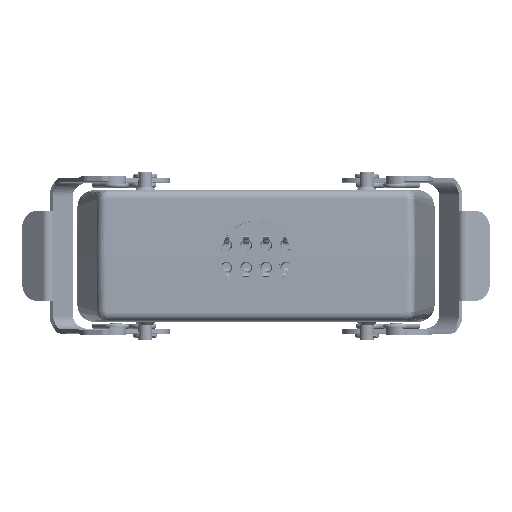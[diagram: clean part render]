
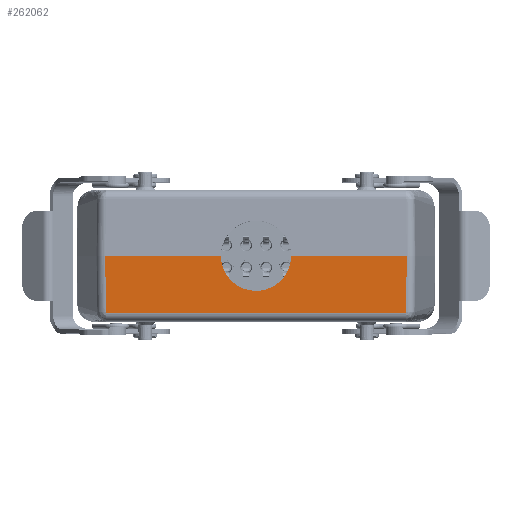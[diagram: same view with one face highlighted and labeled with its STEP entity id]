
A CAD part, top view. The second image highlights one B-rep face of the part: STEP entity #262062.
In plain terms, the highlighted planar face has unit normal (0, -0.018, 1).
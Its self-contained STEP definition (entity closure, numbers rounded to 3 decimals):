
#6110 = DIRECTION ( 'NONE',  ( 0., -0.017, 1. ) ) ;
#6234 = CARTESIAN_POINT ( 'NONE',  ( 50.153, -18.917, 59.67 ) ) ;
#9645 = CARTESIAN_POINT ( 'NONE',  ( -52.947, -19.052, 59.667 ) ) ;
#14399 = EDGE_LOOP ( 'NONE', ( #316236, #77474, #249715, #172580, #141504, #107787, #217909, #228709, #210722 ) ) ;
#17955 = CARTESIAN_POINT ( 'NONE',  ( -50.058, -19.052, 59.667 ) ) ;
#34614 = DIRECTION ( 'NONE',  ( -1., 0., 0. ) ) ;
#38560 = EDGE_CURVE ( 'NONE', #54289, #245146, #62503, .T. ) ;
#39101 = VERTEX_POINT ( 'NONE', #93940 ) ;
#44345 = EDGE_CURVE ( 'NONE', #209314, #253117, #88830, .T. ) ;
#49639 = DIRECTION ( 'NONE',  ( -1., 0., 0. ) ) ;
#51394 = EDGE_CURVE ( 'NONE', #96812, #39101, #92286, .T. ) ;
#52147 = CARTESIAN_POINT ( 'NONE',  ( -11.75, 0., 60. ) ) ;
#53571 = PLANE ( 'NONE',  #227702 ) ;
#54289 = VERTEX_POINT ( 'NONE', #114139 ) ;
#55375 = CARTESIAN_POINT ( 'NONE',  ( -11.75, -5.878, 59.897 ) ) ;
#55895 = LINE ( 'NONE', #258601, #176238 ) ;
#62503 = LINE ( 'NONE', #266779, #234256 ) ;
#70701 = CARTESIAN_POINT ( 'NONE',  ( 11.75, -5.878, 59.897 ) ) ;
#77474 = ORIENTED_EDGE ( 'NONE', *, *, #134165, .T. ) ;
#78141 = CARTESIAN_POINT ( 'NONE',  ( -52.947, 0., 60. ) ) ;
#83987 = CARTESIAN_POINT ( 'NONE',  ( -50.43, 0., 60. ) ) ;
#85578 = CARTESIAN_POINT ( 'NONE',  ( -50.245, -12.616, 59.78 ) ) ;
#86524 = DIRECTION ( 'NONE',  ( 1., 0., 0. ) ) ;
#88830 = B_SPLINE_CURVE_WITH_KNOTS ( 'NONE', 3,
 ( #214226, #142303, #292598, #241982, #17955, #217447 ),
 .UNSPECIFIED., .F., .F.,
 ( 4, 2, 4 ),
 ( 0., 0.5, 1. ),
 .UNSPECIFIED. ) ;
#92286 = LINE ( 'NONE', #244264, #164946 ) ;
#93940 = CARTESIAN_POINT ( 'NONE',  ( -50.43, 0., 60. ) ) ;
#96812 = VERTEX_POINT ( 'NONE', #316627 ) ;
#107787 = ORIENTED_EDGE ( 'NONE', *, *, #44345, .T. ) ;
#113781 = B_SPLINE_CURVE_WITH_KNOTS ( 'NONE', 3,
 ( #231160, #206609, #308016, #306390, #186883, #262088 ),
 .UNSPECIFIED., .F., .F.,
 ( 4, 2, 4 ),
 ( 0., 0.5, 1. ),
 .UNSPECIFIED. ) ;
#114139 = CARTESIAN_POINT ( 'NONE',  ( 50.43, 0., 60. ) ) ;
#114777 = DIRECTION ( 'NONE',  ( -0.015, -1., -0.017 ) ) ;
#129056 = CARTESIAN_POINT ( 'NONE',  ( 11.75, 0., 60. ) ) ;
#134165 = EDGE_CURVE ( 'NONE', #313112, #228527, #278596, .T. ) ;
#135625 = LINE ( 'NONE', #9645, #307247 ) ;
#141504 = ORIENTED_EDGE ( 'NONE', *, *, #243201, .F. ) ;
#142303 = CARTESIAN_POINT ( 'NONE',  ( -50.152, -18.959, 59.669 ) ) ;
#150092 = DIRECTION ( 'NONE',  ( -1., 0., 0. ) ) ;
#157567 = CARTESIAN_POINT ( 'NONE',  ( -50.153, -18.923, 59.67 ) ) ;
#164946 = VECTOR ( 'NONE', #49639, 1000. ) ;
#170400 = CARTESIAN_POINT ( 'NONE',  ( 7.833, -11.755, 59.795 ) ) ;
#172580 = ORIENTED_EDGE ( 'NONE', *, *, #51394, .T. ) ;
#176238 = VECTOR ( 'NONE', #34614, 1000. ) ;
#183970 = EDGE_CURVE ( 'NONE', #253117, #282052, #135625, .T. ) ;
#186883 = CARTESIAN_POINT ( 'NONE',  ( 50.152, -18.955, 59.669 ) ) ;
#205570 = EDGE_CURVE ( 'NONE', #282052, #245146, #113781, .T. ) ;
#206609 = CARTESIAN_POINT ( 'NONE',  ( 50.052, -19.052, 59.667 ) ) ;
#208793 = CARTESIAN_POINT ( 'NONE',  ( 50.015, -19.052, 59.667 ) ) ;
#209314 = VERTEX_POINT ( 'NONE', #276887 ) ;
#210722 = ORIENTED_EDGE ( 'NONE', *, *, #38560, .F. ) ;
#214226 = CARTESIAN_POINT ( 'NONE',  ( -50.153, -18.923, 59.67 ) ) ;
#217330 = B_SPLINE_CURVE_WITH_KNOTS ( 'NONE', 3,
 ( #157567, #85578, #307979, #83987 ),
 .UNSPECIFIED., .F., .F.,
 ( 4, 4 ),
 ( 0., 1. ),
 .UNSPECIFIED. ) ;
#217447 = CARTESIAN_POINT ( 'NONE',  ( -50.021, -19.052, 59.667 ) ) ;
#217909 = ORIENTED_EDGE ( 'NONE', *, *, #183970, .T. ) ;
#225509 = CARTESIAN_POINT ( 'NONE',  ( 0., -11.755, 59.795 ) ) ;
#227702 = AXIS2_PLACEMENT_3D ( 'NONE', #78141, #6110, #150092 ) ;
#228509 = FACE_OUTER_BOUND ( 'NONE', #14399, .T. ) ;
#228527 = VERTEX_POINT ( 'NONE', #281237 ) ;
#228709 = ORIENTED_EDGE ( 'NONE', *, *, #205570, .T. ) ;
#231160 = CARTESIAN_POINT ( 'NONE',  ( 50.015, -19.052, 59.667 ) ) ;
#234256 = VECTOR ( 'NONE', #114777, 1000. ) ;
#239484 = EDGE_CURVE ( 'NONE', #54289, #313112, #55895, .T. ) ;
#241982 = CARTESIAN_POINT ( 'NONE',  ( -50.088, -19.04, 59.668 ) ) ;
#243201 = EDGE_CURVE ( 'NONE', #209314, #39101, #217330, .T. ) ;
#243993 = CARTESIAN_POINT ( 'NONE',  ( 0., -11.755, 59.795 ) ) ;
#244264 = CARTESIAN_POINT ( 'NONE',  ( -52.947, 0., 60. ) ) ;
#245146 = VERTEX_POINT ( 'NONE', #6234 ) ;
#249715 = ORIENTED_EDGE ( 'NONE', *, *, #269979, .T. ) ;
#251404 =( BOUNDED_CURVE ( )  B_SPLINE_CURVE ( 3, ( #225509, #274552, #55375, #52147 ),
 .UNSPECIFIED., .F., .F. ) 
 B_SPLINE_CURVE_WITH_KNOTS ( ( 4, 4 ),
 ( 3.142, 4.712 ),
 .UNSPECIFIED. ) 
 CURVE ( )  GEOMETRIC_REPRESENTATION_ITEM ( )  RATIONAL_B_SPLINE_CURVE ( ( 0.5, 0.5, 0.667, 1. ) ) 
 REPRESENTATION_ITEM ( '' )  );
#253117 = VERTEX_POINT ( 'NONE', #289559 ) ;
#258601 = CARTESIAN_POINT ( 'NONE',  ( -52.947, 0., 60. ) ) ;
#262062 = ADVANCED_FACE ( 'NONE', ( #228509 ), #53571, .T. ) ;
#262088 = CARTESIAN_POINT ( 'NONE',  ( 50.153, -18.917, 59.67 ) ) ;
#265326 = CARTESIAN_POINT ( 'NONE',  ( 11.75, 0., 60. ) ) ;
#266779 = CARTESIAN_POINT ( 'NONE',  ( 50.43, 0., 60. ) ) ;
#269979 = EDGE_CURVE ( 'NONE', #228527, #96812, #251404, .T. ) ;
#274552 = CARTESIAN_POINT ( 'NONE',  ( -7.833, -11.755, 59.795 ) ) ;
#276887 = CARTESIAN_POINT ( 'NONE',  ( -50.153, -18.923, 59.67 ) ) ;
#278596 =( BOUNDED_CURVE ( )  B_SPLINE_CURVE ( 3, ( #265326, #70701, #170400, #243993 ),
 .UNSPECIFIED., .F., .T. ) 
 B_SPLINE_CURVE_WITH_KNOTS ( ( 4, 4 ),
 ( 1.571, 3.142 ),
 .UNSPECIFIED. ) 
 CURVE ( )  GEOMETRIC_REPRESENTATION_ITEM ( )  RATIONAL_B_SPLINE_CURVE ( ( 1., 0.667, 0.5, 0.5 ) ) 
 REPRESENTATION_ITEM ( '' )  );
#281237 = CARTESIAN_POINT ( 'NONE',  ( 0., -11.755, 59.795 ) ) ;
#282052 = VERTEX_POINT ( 'NONE', #208793 ) ;
#289559 = CARTESIAN_POINT ( 'NONE',  ( -50.021, -19.052, 59.667 ) ) ;
#292598 = CARTESIAN_POINT ( 'NONE',  ( -50.138, -18.99, 59.669 ) ) ;
#306390 = CARTESIAN_POINT ( 'NONE',  ( 50.138, -18.987, 59.669 ) ) ;
#307247 = VECTOR ( 'NONE', #86524, 1000. ) ;
#307979 = CARTESIAN_POINT ( 'NONE',  ( -50.338, -6.308, 59.89 ) ) ;
#308016 = CARTESIAN_POINT ( 'NONE',  ( 50.085, -19.039, 59.668 ) ) ;
#313112 = VERTEX_POINT ( 'NONE', #129056 ) ;
#316236 = ORIENTED_EDGE ( 'NONE', *, *, #239484, .T. ) ;
#316627 = CARTESIAN_POINT ( 'NONE',  ( -11.75, 0., 60. ) ) ;
